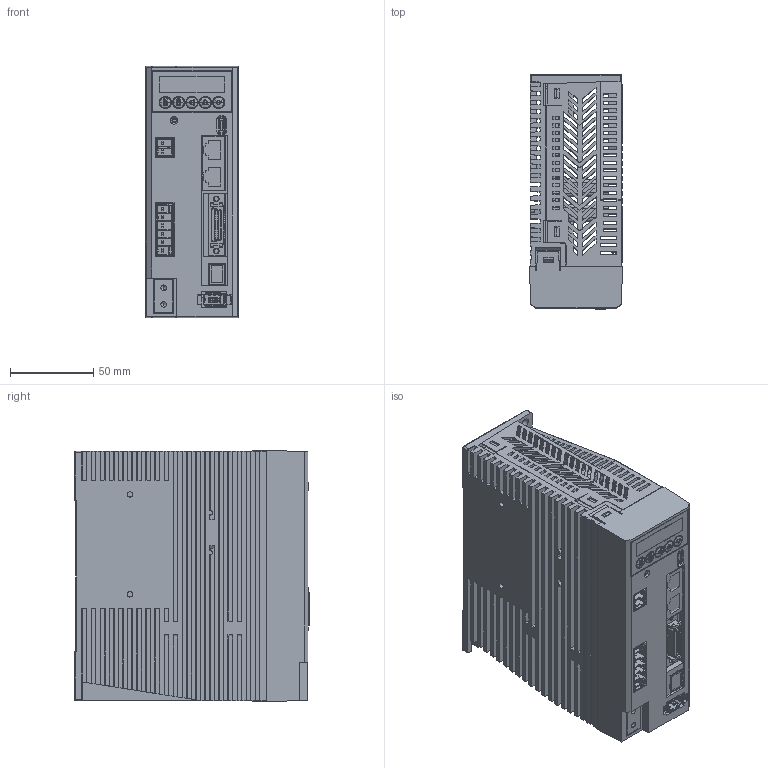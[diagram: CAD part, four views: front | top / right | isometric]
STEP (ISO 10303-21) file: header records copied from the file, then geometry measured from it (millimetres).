
FILE_DESCRIPTION (( 'STEP AP203' ), '1' );
FILE_NAME ('3D芞祧 1倰C1S V1.0.STEP', '2023-07-11T08:57:30', ( 'Microsoft' ), ( 'Microsoft' ), 'SwSTEP 2.0', 'SolidWorks 2020', '' );
FILE_SCHEMA (( 'CONFIG_CONTROL_DESIGN' ));
Length unit declared in the file: millimetre
Products named in the file (17): 晤鎢毀嚏1394脣釱; jack-t3005002pin; C1S散热器; MUF-RS10DK-GKXR; C1S俋褲; 翋萇硌尨腑-400W; 醱啣PCB偌瑩; 珆尨啣PCB 蚾饜极; C1S面壳-拔模修改开模图; jack-t3005006pin-222; 珆尨啣PCB; 3弇杅鎢奪; 偌瑩情臚; 啣傷-26Pin; 3D芞祧 1倰C1S V1.0; TYPE16M86; 561288ADY1027
Assembly tree (21 placements, depth 3):
  3D芞祧 1倰C1S V1.0
    C1S散热器
    C1S俋褲
    珆尨啣PCB 蚾饜极
      珆尨啣PCB
      3弇杅鎢奪  x2
      醱啣PCB偌瑩  x5
    晤鎢毀嚏1394脣釱
    啣傷-26Pin
    jack-t3005006pin-222
    jack-t3005002pin
    翋萇硌尨腑-400W
    MUF-RS10DK-GKXR
    TYPE16M86
    偌瑩情臚
    561288ADY1027
    C1S面壳-拔模修改开模图
Bounding box: 55.81 x 140.83 x 151.25 mm (x, y, z)
Volume: 260539.6 mm3; surface area: 207819.8 mm2
Topology: 21 solids, 22 shells, 6735 faces, 19238 edges, 12701 vertices
Faces by surface type: plane 4886, cylinder 836, bspline 759, torus 145, cone 73, sphere 36
Entity records: 212607 total; most frequent: CARTESIAN_POINT 52196, ORIENTED_EDGE 35668, DIRECTION 28244, EDGE_CURVE 17834, VECTOR 13594, LINE 13594, VERTEX_POINT 11801, AXIS2_PLACEMENT_3D 7325
